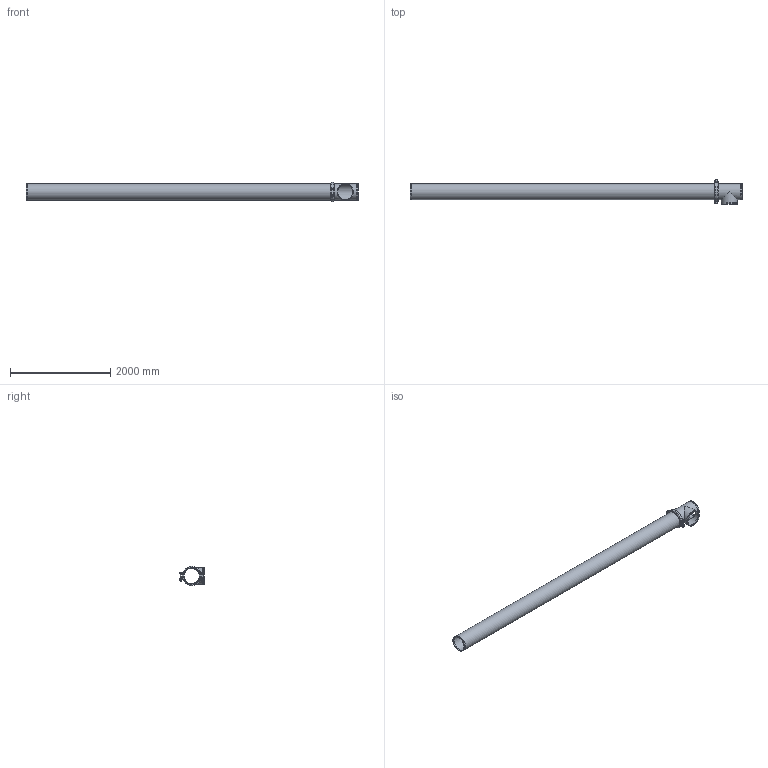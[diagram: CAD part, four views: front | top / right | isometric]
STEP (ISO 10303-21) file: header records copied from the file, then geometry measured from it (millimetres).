
FILE_DESCRIPTION(/* description */ ('VIC LONG RUN FITTING No R12 (OGS)','CAx-IF Rec.Pracs.---Representation and Presentation of Product Manufacturing Information (PMI)---4.0---2014-10-13'),/* implementation_level */ '2;1');
FILE_NAME(/* name */ 'C:\Users\Vjadhav\AppData\Roaming\Autodesk\ApplicationPlugins\Back Up\Victaulic_IPS_Long Run Fittings_No R12 (OGS)\Victaulic_IPS_Long Run Fittings_No R12 (OGS)_12 (300).stp',/* time_stamp */ '2020-10-06T18:49:21+05:00',/* author */ ('Vjadhav'),/* organization */ ('Victaulic'),/* preprocessor_version */ 'ST-DEVELOPER v17.2',/* originating_system */ 'Autodesk Inventor 2019',/* authorisation */ '');
FILE_SCHEMA (('AP242_MANAGED_MODEL_BASED_3D_ENGINEERING_MIM_LF { 1 0 10303 442 1 1 4 }'));
Length unit declared in the file: inch
Products named in the file (4): R12-12.0; 020-12.0; 107N-12.0; Pipe_R10-12.0
Assembly tree (3 placements, depth 2):
  R12-12.0
    020-12.0
    107N-12.0
    Pipe_R10-12.0
Bounding box: 6609.08 x 495.3 x 379.69 mm (x, y, z)
Volume: 64888756.7 mm3; surface area: 13497274.8 mm2
Topology: 3 solids, 3 shells, 150 faces, 377 edges, 256 vertices
Faces by surface type: plane 65, cylinder 63, bspline 16, cone 4, sphere 2
Full cylindrical faces by diameter (mm): 22.225 x4, 37.694 x2, 304.8 x3, 311.15 x1, 318.287 x5, 323.85 x10
Entity records: 5503 total; most frequent: CARTESIAN_POINT 1414, DIRECTION 843, ORIENTED_EDGE 754, EDGE_CURVE 377, AXIS2_PLACEMENT_3D 333, VERTEX_POINT 256, EDGE_LOOP 185, LINE 177
